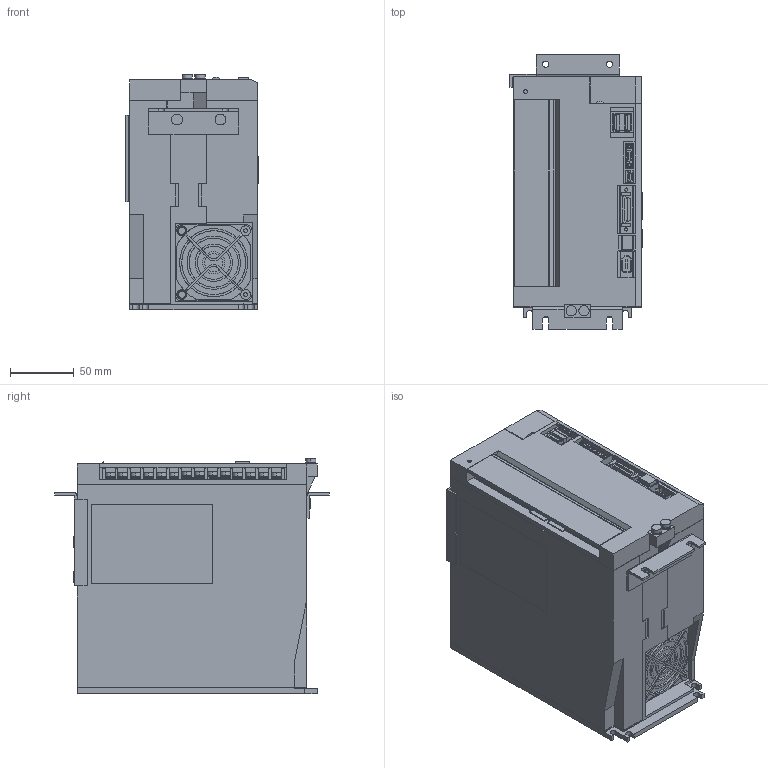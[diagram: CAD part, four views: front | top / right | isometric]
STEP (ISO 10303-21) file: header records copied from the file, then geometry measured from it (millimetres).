
FILE_DESCRIPTION (( 'STEP AP203' ), '1' );
FILE_NAME ('sgd7s_200a10a001.STEP', '2015-09-18T08:26:22', ( '匠エンジニアリング山之内' ), ( 'TAKUMI-Engniaring' ), 'SwSTEP 2.0', 'SolidWorks 2006303', '' );
FILE_SCHEMA (( 'CONFIG_CONTROL_DESIGN' ));
Products named in the file (9): sgd7s_200a10a001_cover3; sgd7s_200a10a001_terminal; sgd7s_200a10a001; sgd7s_200a10a001_base; sgd7s_200a10a001_cover; sgd7s_200a10a001_cover2; sgd7s_200a10a001_connector; sgd7s_200a10a001_mount1; sgd7s_200a10a001_mount2
Assembly tree (10 placements, depth 2):
  sgd7s_200a10a001
    sgd7s_200a10a001_mount2
    sgd7s_200a10a001_connector
    sgd7s_200a10a001_terminal  x2
    sgd7s_200a10a001_cover3
    sgd7s_200a10a001_cover2  x2
    sgd7s_200a10a001_mount1
    sgd7s_200a10a001_base
    sgd7s_200a10a001_cover
Bounding box: 103.5 x 215 x 184.6 mm (x, y, z)
Volume: 3128899.8 mm3; surface area: 216518.5 mm2
Topology: 10 solids, 10 shells, 1986 faces, 5261 edges, 3452 vertices
Faces by surface type: plane 1642, cylinder 339, cone 4, sphere 1
Entity records: 60746 total; most frequent: CARTESIAN_POINT 10503, ORIENTED_EDGE 10318, DIRECTION 9889, EDGE_CURVE 5159, VECTOR 4349, LINE 4349, VERTEX_POINT 3384, AXIS2_PLACEMENT_3D 2770
